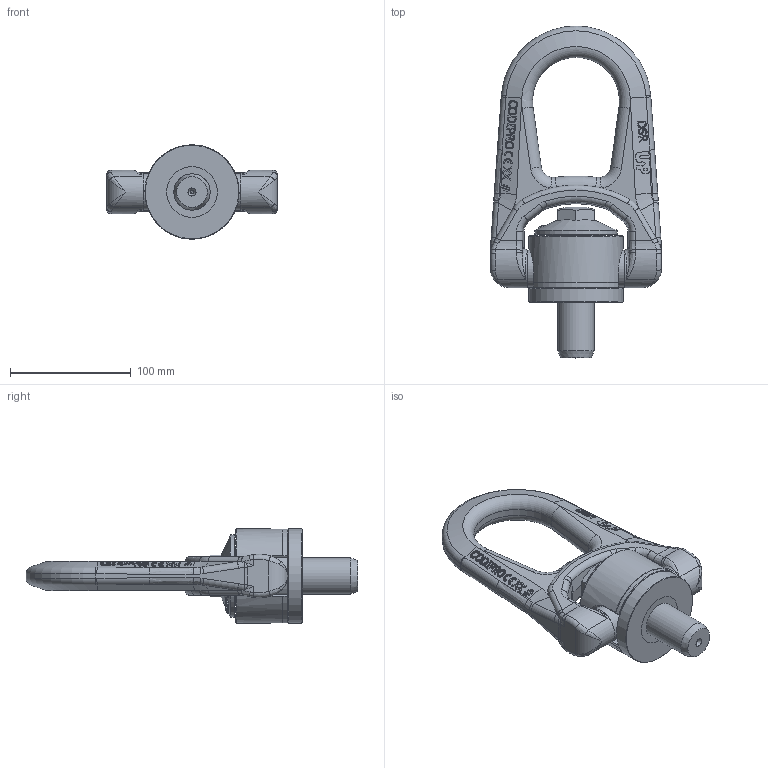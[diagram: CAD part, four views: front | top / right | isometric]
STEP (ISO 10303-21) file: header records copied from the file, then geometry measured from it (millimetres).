
FILE_DESCRIPTION(/* description */ (''),/* implementation_level */ '2;1');
FILE_NAME(/* name */ 'W:\CODIPRO\DOCUMENTS\Plans A NE PAS DIFFUSER !!!\Fichier STEP Modelisé\Gamme UP\Produits UP\DSR UP\DSR M30 8t UP.stp',/* time_stamp */ '2017-09-13T11:02:05+02:00',/* author */ ('rklenes'),/* organization */ (''),/* preprocessor_version */ 'ST-DEVELOPER v16.5',/* originating_system */ 'Autodesk Inventor 2017',/* authorisation */ '');
FILE_SCHEMA (('AUTOMOTIVE_DESIGN { 1 0 10303 214 3 1 1 }'));
Length unit declared in the file: millimetre
Products named in the file (5): DSR M30; DRB_B3B; DRM_AF4B; DRA_M30X102_UP; DRE_D4M30A_UP
Assembly tree (4 placements, depth 2):
  DSR M30
    DRB_B3B
    DRM_AF4B
    DRA_M30X102_UP
    DRE_D4M30A_UP
Bounding box: 141.43 x 274.7 x 78 mm (x, y, z)
Volume: 669245.7 mm3; surface area: 118797.8 mm2
Topology: 4 solids, 4 shells, 826 faces, 2147 edges, 1367 vertices
Faces by surface type: plane 373, bspline 262, cylinder 89, cone 59, torus 42, sphere 1
Full cylindrical faces by diameter (mm): 3.15 x1, 30 x4, 30.2 x1, 30.8 x2, 45.6 x2, 46 x2, 62 x1, 68 x1, 78 x2
Entity records: 30071 total; most frequent: CARTESIAN_POINT 11638, ORIENTED_EDGE 4196, DIRECTION 3076, EDGE_CURVE 2098, VERTEX_POINT 1363, LINE 1026, VECTOR 1026, AXIS2_PLACEMENT_3D 1025
